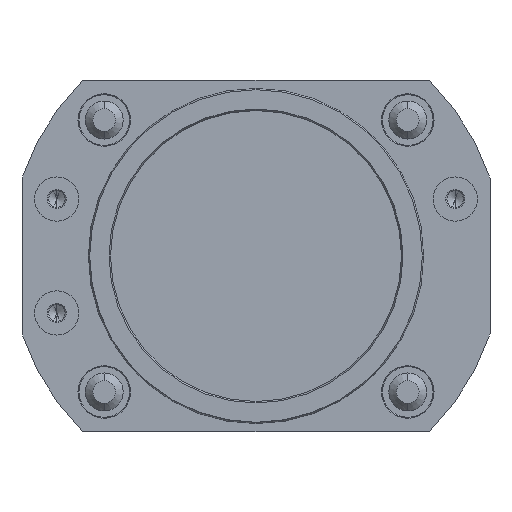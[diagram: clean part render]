
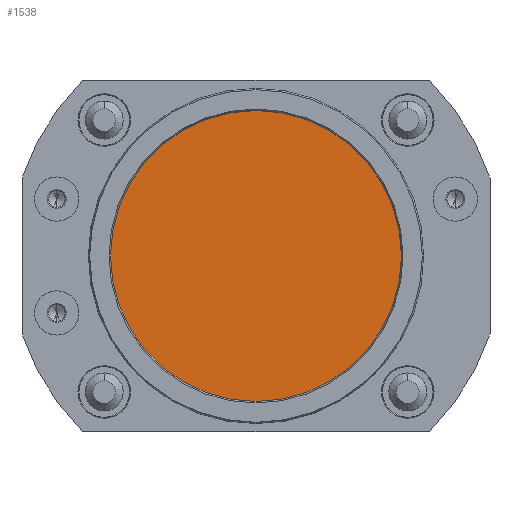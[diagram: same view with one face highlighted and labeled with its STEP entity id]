
A CAD part, front view. The second image highlights one B-rep face of the part: STEP entity #1538.
In plain terms, the highlighted planar face has unit normal (0, -1, 0).
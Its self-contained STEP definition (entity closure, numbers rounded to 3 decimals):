
#1476 = EDGE_LOOP ( 'NONE', ( #1495, #1540 ) ) ;
#1495 = ORIENTED_EDGE ( 'NONE', *, *, #1542, .F. ) ;
#1538 = ADVANCED_FACE ( 'NONE', ( #6314 ), #6258, .T. ) ;
#1540 = ORIENTED_EDGE ( 'NONE', *, *, #4684, .F. ) ;
#1542 = EDGE_CURVE ( 'NONE', #4623, #4625, #6315, .T. ) ;
#4623 = VERTEX_POINT ( 'NONE', #7378 ) ;
#4625 = VERTEX_POINT ( 'NONE', #7374 ) ;
#4684 = EDGE_CURVE ( 'NONE', #4625, #4623, #7478, .T. ) ;
#6258 = PLANE ( 'NONE',  #6263 ) ;
#6259 = CARTESIAN_POINT ( 'NONE',  ( 0., 3., 0. ) ) ;
#6263 = AXIS2_PLACEMENT_3D ( 'NONE', #6274, #6273, #6311 ) ;
#6273 = DIRECTION ( 'NONE',  ( 0., -1., 0. ) ) ;
#6274 = CARTESIAN_POINT ( 'NONE',  ( 0., 3., 0. ) ) ;
#6304 = DIRECTION ( 'NONE',  ( 0., 0., 1. ) ) ;
#6305 = DIRECTION ( 'NONE',  ( 0., 1., 0. ) ) ;
#6306 = AXIS2_PLACEMENT_3D ( 'NONE', #6259, #6305, #6304 ) ;
#6311 = DIRECTION ( 'NONE',  ( 0., 0., -1. ) ) ;
#6314 = FACE_OUTER_BOUND ( 'NONE', #1476, .T. ) ;
#6315 = CIRCLE ( 'NONE', #6306, 23. ) ;
#7374 = CARTESIAN_POINT ( 'NONE',  ( 0., 3., -23. ) ) ;
#7378 = CARTESIAN_POINT ( 'NONE',  ( 0., 3., 23. ) ) ;
#7478 = CIRCLE ( 'NONE', #7514, 23. ) ;
#7511 = DIRECTION ( 'NONE',  ( 0., 0., 1. ) ) ;
#7512 = DIRECTION ( 'NONE',  ( 0., 1., 0. ) ) ;
#7513 = CARTESIAN_POINT ( 'NONE',  ( 0., 3., 0. ) ) ;
#7514 = AXIS2_PLACEMENT_3D ( 'NONE', #7513, #7512, #7511 ) ;
